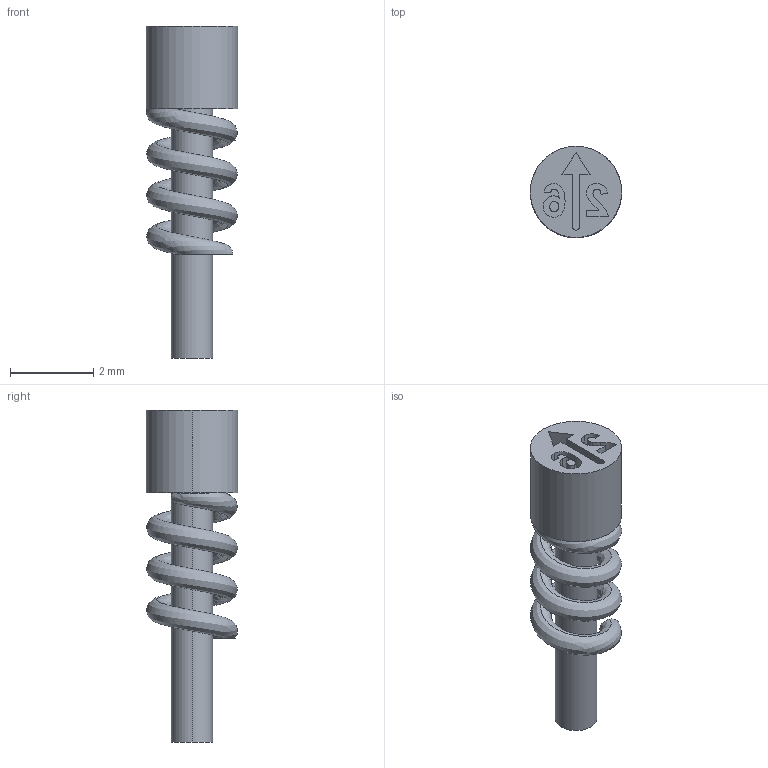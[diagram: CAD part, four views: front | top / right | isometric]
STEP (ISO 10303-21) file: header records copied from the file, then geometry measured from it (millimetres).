
FILE_DESCRIPTION (( 'STEP AP203' ), '1' );
FILE_NAME ('DCP04-26.step', '2025-04-15T18:31:42', ( '' ), ( '' ), 'SwSTEP 2.0', 'SolidWorks 2023', '' );
FILE_SCHEMA (( 'CONFIG_CONTROL_DESIGN' ));
Length unit declared in the file: millimetre
Products named in the file (3): DCP04-26; DCSPR04
Assembly tree (2 placements, depth 2):
  DCP04-26
    DCP04-26
    DCSPR04
Bounding box: 2.2 x 2.2 x 8 mm (x, y, z)
Volume: 15.5 mm3; surface area: 74.4 mm2
Topology: 2 solids, 2 shells, 50 faces, 123 edges, 82 vertices
Faces by surface type: bspline 23, plane 22, cylinder 5
Entity records: 3786 total; most frequent: CARTESIAN_POINT 2449, ORIENTED_EDGE 246, DIRECTION 153, EDGE_CURVE 123, VERTEX_POINT 82, LINE 61, VECTOR 61, EDGE_LOOP 55
